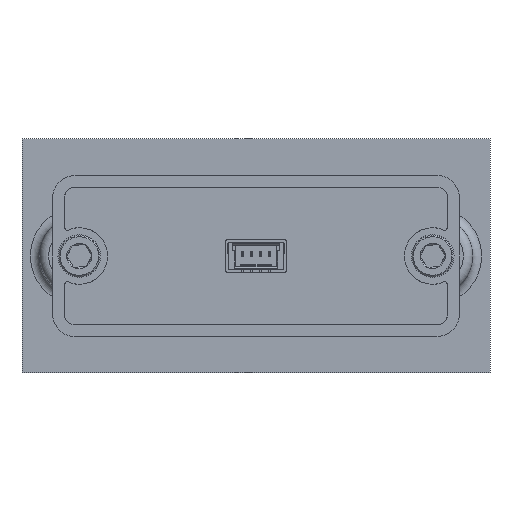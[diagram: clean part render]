
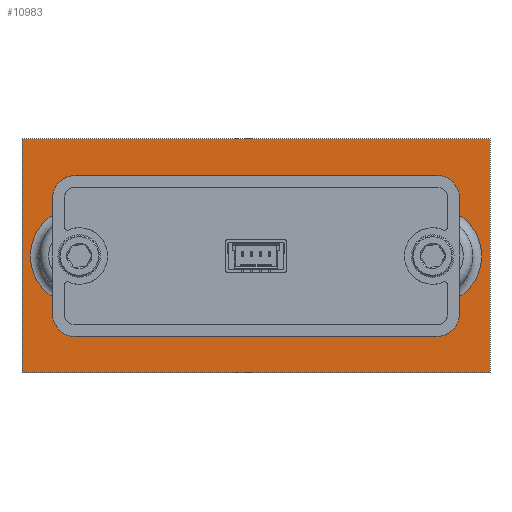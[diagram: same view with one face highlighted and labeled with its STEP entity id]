
A CAD part, front view. The second image highlights one B-rep face of the part: STEP entity #10983.
In plain terms, the highlighted planar face has unit normal (0, -1, 0) as drawn and (0, 1, 0) by its records, which use the part's own axes.
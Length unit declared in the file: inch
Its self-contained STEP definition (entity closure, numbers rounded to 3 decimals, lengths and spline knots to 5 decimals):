
#99 = CIRCLE ( 'NONE', #18348, 0.209 ) ;
#208 = CIRCLE ( 'NONE', #11725, 0.055 ) ;
#397 = DIRECTION ( 'NONE',  ( 0., -1., 0. ) ) ;
#415 = ORIENTED_EDGE ( 'NONE', *, *, #7819, .T. ) ;
#475 = ORIENTED_EDGE ( 'NONE', *, *, #18281, .T. ) ;
#858 = CARTESIAN_POINT ( 'NONE',  ( -0.755, 0.0925, 0.209 ) ) ;
#1283 = EDGE_CURVE ( 'NONE', #3562, #21901, #16256, .T. ) ;
#1482 = CARTESIAN_POINT ( 'NONE',  ( 0.378, 0.0925, -0.167 ) ) ;
#1499 = VERTEX_POINT ( 'NONE', #6417 ) ;
#2125 = EDGE_CURVE ( 'NONE', #21901, #3562, #3103, .T. ) ;
#2469 = ORIENTED_EDGE ( 'NONE', *, *, #28340, .T. ) ;
#2484 = AXIS2_PLACEMENT_3D ( 'NONE', #14150, #4164, #9570 ) ;
#2884 = ORIENTED_EDGE ( 'NONE', *, *, #6196, .T. ) ;
#3068 = ORIENTED_EDGE ( 'NONE', *, *, #1283, .T. ) ;
#3103 = CIRCLE ( 'NONE', #4148, 0.209 ) ;
#3299 = LINE ( 'NONE', #12803, #13291 ) ;
#3461 = DIRECTION ( 'NONE',  ( 0., 0., -1. ) ) ;
#3562 = VERTEX_POINT ( 'NONE', #15290 ) ;
#3705 = DIRECTION ( 'NONE',  ( 0., -1., 0. ) ) ;
#4148 = AXIS2_PLACEMENT_3D ( 'NONE', #27621, #28368, #26086 ) ;
#4164 = DIRECTION ( 'NONE',  ( 0., -1., 0. ) ) ;
#4508 = CARTESIAN_POINT ( 'NONE',  ( -1., 0.0925, 0.5 ) ) ;
#4772 = DIRECTION ( 'NONE',  ( 0., 0., -1. ) ) ;
#4785 = AXIS2_PLACEMENT_3D ( 'NONE', #22802, #397, #30386 ) ;
#4864 = EDGE_CURVE ( 'NONE', #12431, #18345, #17199, .T. ) ;
#5198 = ORIENTED_EDGE ( 'NONE', *, *, #2125, .T. ) ;
#5947 = FACE_BOUND ( 'NONE', #6744, .T. ) ;
#6068 = DIRECTION ( 'NONE',  ( 1., 0., 0. ) ) ;
#6126 = VERTEX_POINT ( 'NONE', #21085 ) ;
#6196 = EDGE_CURVE ( 'NONE', #17624, #7241, #16008, .T. ) ;
#6417 = CARTESIAN_POINT ( 'NONE',  ( 1., 0.0925, -0.5 ) ) ;
#6436 = FACE_BOUND ( 'NONE', #18723, .T. ) ;
#6672 = CIRCLE ( 'NONE', #2484, 0.055 ) ;
#6703 = ORIENTED_EDGE ( 'NONE', *, *, #23113, .T. ) ;
#6744 = EDGE_LOOP ( 'NONE', ( #16893, #2469 ) ) ;
#6955 = VERTEX_POINT ( 'NONE', #8071 ) ;
#7241 = VERTEX_POINT ( 'NONE', #9599 ) ;
#7257 = DIRECTION ( 'NONE',  ( 0., -1., 0. ) ) ;
#7819 = EDGE_CURVE ( 'NONE', #6955, #21397, #23412, .T. ) ;
#7936 = VERTEX_POINT ( 'NONE', #14745 ) ;
#7971 = CARTESIAN_POINT ( 'NONE',  ( -1., 0.0925, 0.5 ) ) ;
#8071 = CARTESIAN_POINT ( 'NONE',  ( 0.433, 0.0925, -0.112 ) ) ;
#8197 = CARTESIAN_POINT ( 'NONE',  ( -0.378, 0.0925, 0.112 ) ) ;
#8203 = DIRECTION ( 'NONE',  ( -1., 0., 0. ) ) ;
#8258 = ORIENTED_EDGE ( 'NONE', *, *, #8773, .T. ) ;
#8397 = DIRECTION ( 'NONE',  ( 0., 0., -1. ) ) ;
#8773 = EDGE_CURVE ( 'NONE', #1499, #12431, #31902, .T. ) ;
#8944 = VECTOR ( 'NONE', #6068, 39.37008 ) ;
#8951 = DIRECTION ( 'NONE',  ( 0., 0., -1. ) ) ;
#8996 = DIRECTION ( 'NONE',  ( 0., -1., 0. ) ) ;
#9347 = VECTOR ( 'NONE', #8397, 39.37008 ) ;
#9442 = CARTESIAN_POINT ( 'NONE',  ( -1., 0.0925, -0.5 ) ) ;
#9570 = DIRECTION ( 'NONE',  ( 0., 0., -1. ) ) ;
#9580 = AXIS2_PLACEMENT_3D ( 'NONE', #12233, #27149, #27634 ) ;
#9599 = CARTESIAN_POINT ( 'NONE',  ( 0.378, 0.0925, -0.167 ) ) ;
#9614 = EDGE_CURVE ( 'NONE', #21397, #14298, #6672, .T. ) ;
#9706 = CARTESIAN_POINT ( 'NONE',  ( 0., 0.0925, 0. ) ) ;
#9868 = CARTESIAN_POINT ( 'NONE',  ( -0.378, 0.0925, -0.112 ) ) ;
#10227 = DIRECTION ( 'NONE',  ( 1., 0., 0. ) ) ;
#10930 = EDGE_LOOP ( 'NONE', ( #475, #8258, #25987, #19635 ) ) ;
#10973 = CIRCLE ( 'NONE', #18238, 0.055 ) ;
#10983 = ADVANCED_FACE ( 'NONE', ( #6436, #26589, #5947, #32315 ), #24573, .F. ) ;
#11175 = DIRECTION ( 'NONE',  ( 0., 0., 1. ) ) ;
#11368 = CARTESIAN_POINT ( 'NONE',  ( -0.378, 0.0925, -0.167 ) ) ;
#11705 = EDGE_CURVE ( 'NONE', #18345, #16666, #32201, .T. ) ;
#11725 = AXIS2_PLACEMENT_3D ( 'NONE', #9868, #7257, #17192 ) ;
#12233 = CARTESIAN_POINT ( 'NONE',  ( 0.378, 0.0925, -0.112 ) ) ;
#12322 = CARTESIAN_POINT ( 'NONE',  ( -1., 0.0925, 0.5 ) ) ;
#12391 = ORIENTED_EDGE ( 'NONE', *, *, #9614, .T. ) ;
#12431 = VERTEX_POINT ( 'NONE', #30344 ) ;
#12803 = CARTESIAN_POINT ( 'NONE',  ( -0.378, 0.0925, 0.167 ) ) ;
#12832 = VECTOR ( 'NONE', #11175, 39.37008 ) ;
#12992 = EDGE_CURVE ( 'NONE', #7936, #6126, #10973, .T. ) ;
#13112 = CARTESIAN_POINT ( 'NONE',  ( -0.755, 0.0925, -0.209 ) ) ;
#13291 = VECTOR ( 'NONE', #8203, 39.37008 ) ;
#13459 = DIRECTION ( 'NONE',  ( 0., 0., 1. ) ) ;
#14060 = ORIENTED_EDGE ( 'NONE', *, *, #31251, .T. ) ;
#14150 = CARTESIAN_POINT ( 'NONE',  ( 0.378, 0.0925, 0.112 ) ) ;
#14298 = VERTEX_POINT ( 'NONE', #24137 ) ;
#14525 = AXIS2_PLACEMENT_3D ( 'NONE', #9706, #29855, #4772 ) ;
#14700 = ORIENTED_EDGE ( 'NONE', *, *, #29655, .T. ) ;
#14745 = CARTESIAN_POINT ( 'NONE',  ( -0.378, 0.0925, 0.167 ) ) ;
#15134 = VERTEX_POINT ( 'NONE', #858 ) ;
#15290 = CARTESIAN_POINT ( 'NONE',  ( 0.755, 0.0925, 0.209 ) ) ;
#16008 = LINE ( 'NONE', #1482, #8944 ) ;
#16256 = CIRCLE ( 'NONE', #4785, 0.209 ) ;
#16666 = VERTEX_POINT ( 'NONE', #29510 ) ;
#16893 = ORIENTED_EDGE ( 'NONE', *, *, #17202, .T. ) ;
#16990 = EDGE_LOOP ( 'NONE', ( #5198, #3068 ) ) ;
#17192 = DIRECTION ( 'NONE',  ( 0., 0., -1. ) ) ;
#17199 = LINE ( 'NONE', #12322, #23737 ) ;
#17202 = EDGE_CURVE ( 'NONE', #25123, #15134, #99, .T. ) ;
#17338 = VECTOR ( 'NONE', #19089, 39.37008 ) ;
#17624 = VERTEX_POINT ( 'NONE', #11368 ) ;
#18238 = AXIS2_PLACEMENT_3D ( 'NONE', #8197, #25896, #3461 ) ;
#18281 = EDGE_CURVE ( 'NONE', #16666, #1499, #31754, .T. ) ;
#18345 = VERTEX_POINT ( 'NONE', #7971 ) ;
#18348 = AXIS2_PLACEMENT_3D ( 'NONE', #21182, #3705, #8951 ) ;
#18723 = EDGE_LOOP ( 'NONE', ( #2884, #14060, #415, #12391, #6703, #20674, #14700, #20820 ) ) ;
#19089 = DIRECTION ( 'NONE',  ( 0., 0., -1. ) ) ;
#19145 = CARTESIAN_POINT ( 'NONE',  ( 0.433, 0.0925, 0.112 ) ) ;
#19182 = CIRCLE ( 'NONE', #23379, 0.209 ) ;
#19372 = DIRECTION ( 'NONE',  ( -1., 0., 0. ) ) ;
#19635 = ORIENTED_EDGE ( 'NONE', *, *, #11705, .T. ) ;
#20662 = CARTESIAN_POINT ( 'NONE',  ( -0.433, 0.0925, -0.112 ) ) ;
#20674 = ORIENTED_EDGE ( 'NONE', *, *, #12992, .T. ) ;
#20820 = ORIENTED_EDGE ( 'NONE', *, *, #23071, .T. ) ;
#21085 = CARTESIAN_POINT ( 'NONE',  ( -0.433, 0.0925, 0.112 ) ) ;
#21182 = CARTESIAN_POINT ( 'NONE',  ( -0.755, 0.0925, 0. ) ) ;
#21397 = VERTEX_POINT ( 'NONE', #26681 ) ;
#21901 = VERTEX_POINT ( 'NONE', #24278 ) ;
#22187 = CARTESIAN_POINT ( 'NONE',  ( 1., 0.0925, 0.5 ) ) ;
#22802 = CARTESIAN_POINT ( 'NONE',  ( 0.755, 0.0925, 0. ) ) ;
#23071 = EDGE_CURVE ( 'NONE', #30624, #17624, #208, .T. ) ;
#23113 = EDGE_CURVE ( 'NONE', #14298, #7936, #3299, .T. ) ;
#23379 = AXIS2_PLACEMENT_3D ( 'NONE', #23711, #8996, #29000 ) ;
#23412 = LINE ( 'NONE', #19145, #12832 ) ;
#23711 = CARTESIAN_POINT ( 'NONE',  ( -0.755, 0.0925, 0. ) ) ;
#23737 = VECTOR ( 'NONE', #13459, 39.37008 ) ;
#24137 = CARTESIAN_POINT ( 'NONE',  ( 0.378, 0.0925, 0.167 ) ) ;
#24278 = CARTESIAN_POINT ( 'NONE',  ( 0.755, 0.0925, -0.209 ) ) ;
#24573 = PLANE ( 'NONE',  #14525 ) ;
#25123 = VERTEX_POINT ( 'NONE', #13112 ) ;
#25896 = DIRECTION ( 'NONE',  ( 0., -1., 0. ) ) ;
#25987 = ORIENTED_EDGE ( 'NONE', *, *, #4864, .T. ) ;
#26086 = DIRECTION ( 'NONE',  ( 0., 0., -1. ) ) ;
#26589 = FACE_BOUND ( 'NONE', #16990, .T. ) ;
#26681 = CARTESIAN_POINT ( 'NONE',  ( 0.433, 0.0925, 0.112 ) ) ;
#27149 = DIRECTION ( 'NONE',  ( 0., -1., 0. ) ) ;
#27621 = CARTESIAN_POINT ( 'NONE',  ( 0.755, 0.0925, 0. ) ) ;
#27634 = DIRECTION ( 'NONE',  ( 0., 0., -1. ) ) ;
#27899 = CIRCLE ( 'NONE', #9580, 0.055 ) ;
#28340 = EDGE_CURVE ( 'NONE', #15134, #25123, #19182, .T. ) ;
#28368 = DIRECTION ( 'NONE',  ( 0., -1., 0. ) ) ;
#28604 = VECTOR ( 'NONE', #19372, 39.37008 ) ;
#29000 = DIRECTION ( 'NONE',  ( 0., 0., -1. ) ) ;
#29240 = VECTOR ( 'NONE', #10227, 39.37008 ) ;
#29510 = CARTESIAN_POINT ( 'NONE',  ( 1., 0.0925, 0.5 ) ) ;
#29655 = EDGE_CURVE ( 'NONE', #6126, #30624, #30844, .T. ) ;
#29855 = DIRECTION ( 'NONE',  ( 0., -1., 0. ) ) ;
#30344 = CARTESIAN_POINT ( 'NONE',  ( -1., 0.0925, -0.5 ) ) ;
#30386 = DIRECTION ( 'NONE',  ( 0., 0., -1. ) ) ;
#30624 = VERTEX_POINT ( 'NONE', #31363 ) ;
#30844 = LINE ( 'NONE', #20662, #9347 ) ;
#31251 = EDGE_CURVE ( 'NONE', #7241, #6955, #27899, .T. ) ;
#31363 = CARTESIAN_POINT ( 'NONE',  ( -0.433, 0.0925, -0.112 ) ) ;
#31754 = LINE ( 'NONE', #22187, #17338 ) ;
#31902 = LINE ( 'NONE', #9442, #28604 ) ;
#32201 = LINE ( 'NONE', #4508, #29240 ) ;
#32315 = FACE_OUTER_BOUND ( 'NONE', #10930, .T. ) ;
